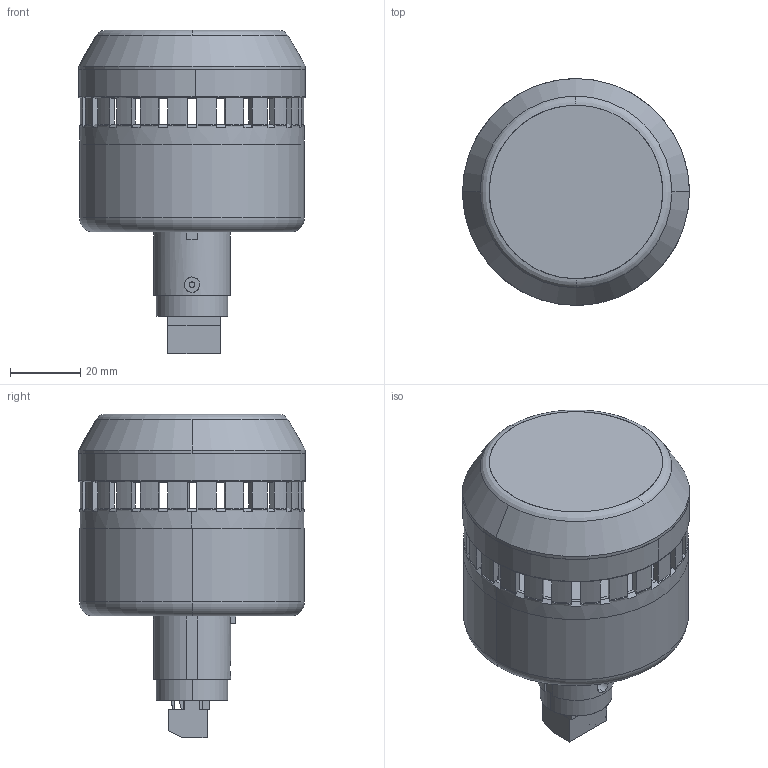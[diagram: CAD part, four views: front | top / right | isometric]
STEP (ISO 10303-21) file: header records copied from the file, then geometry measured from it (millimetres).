
FILE_DESCRIPTION((''),'2;1');
FILE_NAME('40358-65MM-COMBO_SW0001','2019-12-05T17:00:09',('WJPreisc'),('Rockwell Automation'),'CREO PARAMETRIC BY PTC INC, 2017380','CREO PARAMETRIC BY PTC INC, 2017380','');
FILE_SCHEMA(('CONFIG_CONTROL_DESIGN'));
Length unit declared in the file: millimetre
Products named in the file (1): 40358-65MM-COMBO_SW0001
Bounding box: 64.6 x 64.6 x 92.05 mm (x, y, z)
Surface area: 51995.6 mm2 (no closed solid volume)
Topology: 0 solids, 114 shells, 660 faces, 2478 edges, 1813 vertices
Faces by surface type: cylinder 323, plane 247, torus 70, cone 18, sphere 1, bspline 1
Entity records: 30124 total; most frequent: CARTESIAN_POINT 10747, DIRECTION 3696, ORIENTED_EDGE 3673, EDGE_CURVE 2476, VERTEX_POINT 1813, AXIS2_PLACEMENT_3D 1277, VECTOR 1142, LINE 1142
